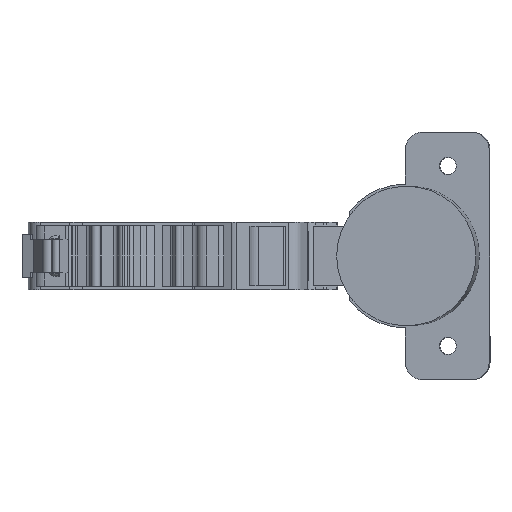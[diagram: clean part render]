
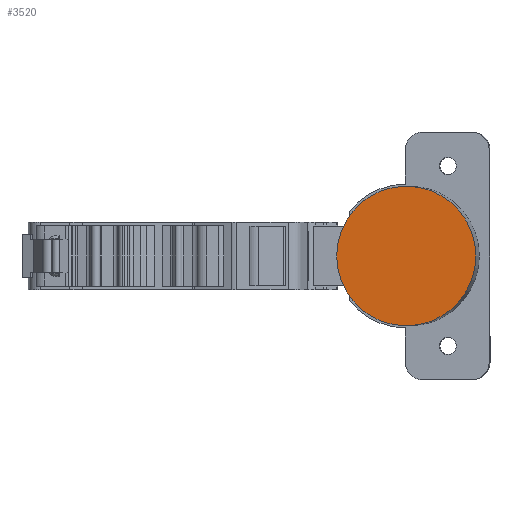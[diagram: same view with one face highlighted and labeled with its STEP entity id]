
A CAD part, front view. The second image highlights one B-rep face of the part: STEP entity #3520.
In plain terms, the highlighted planar face has unit normal (-0.076, -0.997, 0).
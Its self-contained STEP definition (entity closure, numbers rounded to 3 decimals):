
#1131 = DIRECTION ( 'NONE',  ( 0.997, -0.076, 0. ) ) ;
#1213 = EDGE_LOOP ( 'NONE', ( #4549, #4625 ) ) ;
#1395 = EDGE_CURVE ( 'NONE', #3264, #4018, #6079, .T. ) ;
#1646 = AXIS2_PLACEMENT_3D ( 'NONE', #2176, #5574, #1708 ) ;
#1708 = DIRECTION ( 'NONE',  ( 0., 0., -1. ) ) ;
#2176 = CARTESIAN_POINT ( 'NONE',  ( 32.114, -18.678, -7.7 ) ) ;
#2592 = CARTESIAN_POINT ( 'NONE',  ( 20.996, -17.834, 0. ) ) ;
#3191 = AXIS2_PLACEMENT_3D ( 'NONE', #2592, #5403, #1131 ) ;
#3264 = VERTEX_POINT ( 'NONE', #5026 ) ;
#3520 = ADVANCED_FACE ( 'NONE', ( #4605 ), #3575, .F. ) ;
#3575 = PLANE ( 'NONE',  #1646 ) ;
#4018 = VERTEX_POINT ( 'NONE', #5106 ) ;
#4195 = DIRECTION ( 'NONE',  ( 0.997, -0.076, 0. ) ) ;
#4232 = CIRCLE ( 'NONE', #4731, 17.45 ) ;
#4549 = ORIENTED_EDGE ( 'NONE', *, *, #1395, .T. ) ;
#4605 = FACE_OUTER_BOUND ( 'NONE', #1213, .T. ) ;
#4625 = ORIENTED_EDGE ( 'NONE', *, *, #5661, .T. ) ;
#4731 = AXIS2_PLACEMENT_3D ( 'NONE', #5008, #6065, #4195 ) ;
#5008 = CARTESIAN_POINT ( 'NONE',  ( 20.996, -17.834, 0. ) ) ;
#5026 = CARTESIAN_POINT ( 'NONE',  ( 20.996, -17.834, 17.45 ) ) ;
#5106 = CARTESIAN_POINT ( 'NONE',  ( 20.996, -17.834, -17.45 ) ) ;
#5403 = DIRECTION ( 'NONE',  ( -0.076, -0.997, 0. ) ) ;
#5574 = DIRECTION ( 'NONE',  ( 0.076, 0.997, 0. ) ) ;
#5661 = EDGE_CURVE ( 'NONE', #4018, #3264, #4232, .T. ) ;
#6065 = DIRECTION ( 'NONE',  ( -0.076, -0.997, 0. ) ) ;
#6079 = CIRCLE ( 'NONE', #3191, 17.45 ) ;
